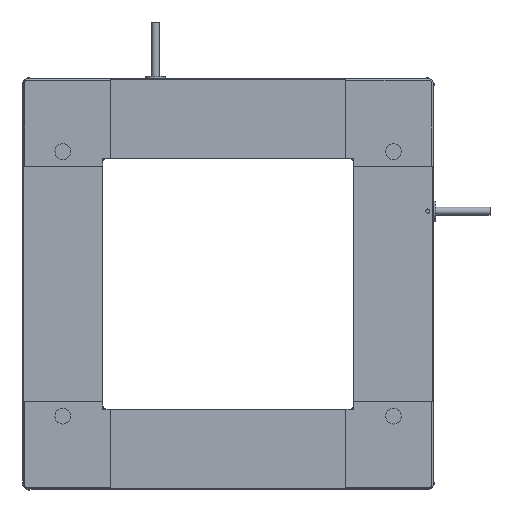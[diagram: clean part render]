
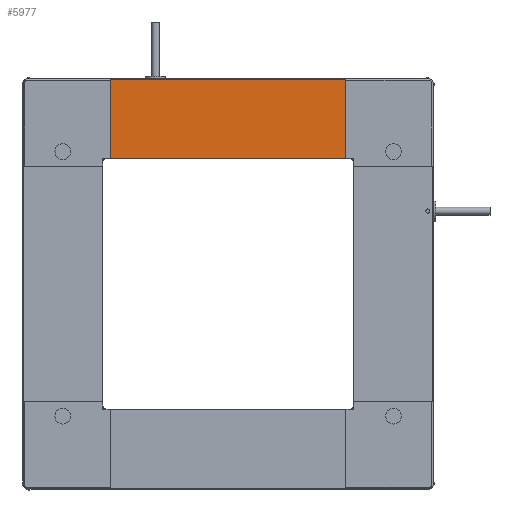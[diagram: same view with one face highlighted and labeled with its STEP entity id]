
A CAD part, front view. The second image highlights one B-rep face of the part: STEP entity #5977.
In plain terms, the highlighted planar face has unit normal (0, -1, 0).
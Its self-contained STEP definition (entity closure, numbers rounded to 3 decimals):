
#20 = EDGE_CURVE ( 'NONE', #4154, #4270, #4803, .T. ) ;
#268 = CARTESIAN_POINT ( 'NONE',  ( 44.5, 0.2, 77.2 ) ) ;
#1058 = DIRECTION ( 'NONE',  ( 1., 0., 0. ) ) ;
#2243 = EDGE_LOOP ( 'NONE', ( #3029, #4958, #7286, #10477 ) ) ;
#3029 = ORIENTED_EDGE ( 'NONE', *, *, #11341, .F. ) ;
#3790 = CARTESIAN_POINT ( 'NONE',  ( -44.5, 0.2, 44.5 ) ) ;
#3828 = DIRECTION ( 'NONE',  ( -1., 0., 0. ) ) ;
#3846 = AXIS2_PLACEMENT_3D ( 'NONE', #10106, #9071, #10064 ) ;
#4154 = VERTEX_POINT ( 'NONE', #268 ) ;
#4270 = VERTEX_POINT ( 'NONE', #4399 ) ;
#4399 = CARTESIAN_POINT ( 'NONE',  ( 44.5, 0.2, 47.5 ) ) ;
#4401 = CARTESIAN_POINT ( 'NONE',  ( 44.5, 0.2, 44.5 ) ) ;
#4803 = LINE ( 'NONE', #4401, #9301 ) ;
#4958 = ORIENTED_EDGE ( 'NONE', *, *, #20, .F. ) ;
#5052 = PLANE ( 'NONE',  #3846 ) ;
#5977 = ADVANCED_FACE ( 'NONE', ( #7860 ), #5052, .T. ) ;
#6349 = EDGE_CURVE ( 'NONE', #10605, #9747, #11399, .T. ) ;
#7286 = ORIENTED_EDGE ( 'NONE', *, *, #7719, .F. ) ;
#7719 = EDGE_CURVE ( 'NONE', #9747, #4154, #11072, .T. ) ;
#7860 = FACE_OUTER_BOUND ( 'NONE', #2243, .T. ) ;
#8461 = VECTOR ( 'NONE', #1058, 1000. ) ;
#8792 = VECTOR ( 'NONE', #10659, 1000. ) ;
#8826 = LINE ( 'NONE', #12800, #10831 ) ;
#9071 = DIRECTION ( 'NONE',  ( 0., -1., 0. ) ) ;
#9301 = VECTOR ( 'NONE', #11355, 1000. ) ;
#9682 = CARTESIAN_POINT ( 'NONE',  ( -44.5, 0.2, 77.2 ) ) ;
#9747 = VERTEX_POINT ( 'NONE', #9682 ) ;
#10064 = DIRECTION ( 'NONE',  ( 0., 0., -1. ) ) ;
#10106 = CARTESIAN_POINT ( 'NONE',  ( 0., 0.2, 0. ) ) ;
#10335 = CARTESIAN_POINT ( 'NONE',  ( -44.5, 0.2, 47.5 ) ) ;
#10477 = ORIENTED_EDGE ( 'NONE', *, *, #6349, .F. ) ;
#10605 = VERTEX_POINT ( 'NONE', #10335 ) ;
#10659 = DIRECTION ( 'NONE',  ( 0., 0., 1. ) ) ;
#10831 = VECTOR ( 'NONE', #3828, 1000. ) ;
#11072 = LINE ( 'NONE', #12618, #8461 ) ;
#11341 = EDGE_CURVE ( 'NONE', #4270, #10605, #8826, .T. ) ;
#11355 = DIRECTION ( 'NONE',  ( 0., 0., -1. ) ) ;
#11399 = LINE ( 'NONE', #3790, #8792 ) ;
#12618 = CARTESIAN_POINT ( 'NONE',  ( -77.5, 0.2, 77.2 ) ) ;
#12800 = CARTESIAN_POINT ( 'NONE',  ( 0., 0.2, 47.5 ) ) ;
